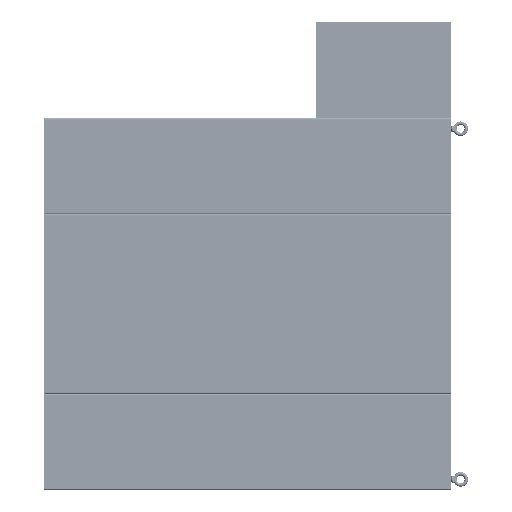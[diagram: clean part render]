
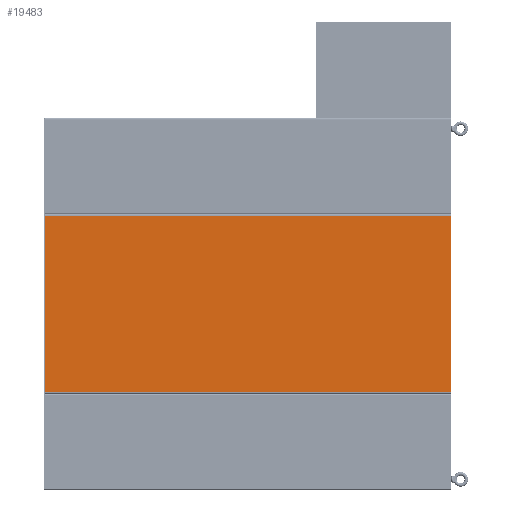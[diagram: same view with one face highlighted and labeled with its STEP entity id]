
A CAD part, left-side view. The second image highlights one B-rep face of the part: STEP entity #19483.
In plain terms, the highlighted planar face has unit normal (-1, 0, 0) as drawn and (0, 0, -1) by its records, which use the part's own axes.
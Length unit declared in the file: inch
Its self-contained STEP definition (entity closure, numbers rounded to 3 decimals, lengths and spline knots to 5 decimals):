
#19019=DIRECTION('',(0.,-1.,0.));
#19020=VECTOR('',#19019,71.75);
#19021=CARTESIAN_POINT('',(-15.625,0.,-0.125));
#19022=LINE('',#19021,#19020);
#19034=DIRECTION('',(1.,0.,0.));
#19035=VECTOR('',#19034,31.25);
#19036=CARTESIAN_POINT('',(-15.625,-71.75,-0.125));
#19037=LINE('',#19036,#19035);
#19041=DIRECTION('',(-1.,0.,0.));
#19042=VECTOR('',#19041,31.25);
#19043=CARTESIAN_POINT('',(15.625,0.,-0.125));
#19044=LINE('',#19043,#19042);
#19077=DIRECTION('',(0.,1.,0.));
#19078=VECTOR('',#19077,71.75);
#19079=CARTESIAN_POINT('',(15.625,-71.75,-0.125));
#19080=LINE('',#19079,#19078);
#19284=CARTESIAN_POINT('',(15.625,0.,-0.125));
#19285=VERTEX_POINT('',#19284);
#19286=CARTESIAN_POINT('',(15.625,-71.75,-0.125));
#19287=VERTEX_POINT('',#19286);
#19300=CARTESIAN_POINT('',(-15.625,-71.75,-0.125));
#19301=VERTEX_POINT('',#19300);
#19302=CARTESIAN_POINT('',(-15.625,0.,-0.125));
#19303=VERTEX_POINT('',#19302);
#19469=CARTESIAN_POINT('',(0.,0.,-0.125));
#19470=DIRECTION('',(0.,0.,1.));
#19471=DIRECTION('',(1.,0.,0.));
#19472=AXIS2_PLACEMENT_3D('',#19469,#19470,#19471);
#19473=PLANE('',#19472);
#19474=ORIENTED_EDGE('',*,*,#19462,.T.);
#19476=ORIENTED_EDGE('',*,*,#19475,.T.);
#19478=ORIENTED_EDGE('',*,*,#19477,.T.);
#19480=ORIENTED_EDGE('',*,*,#19479,.T.);
#19481=EDGE_LOOP('',(#19474,#19476,#19478,#19480));
#19482=FACE_OUTER_BOUND('',#19481,.F.);
#19462=EDGE_CURVE('',#19303,#19301,#19022,.T.);
#19475=EDGE_CURVE('',#19301,#19287,#19037,.T.);
#19477=EDGE_CURVE('',#19287,#19285,#19080,.T.);
#19479=EDGE_CURVE('',#19285,#19303,#19044,.T.);
#19483=ADVANCED_FACE('',(#19482),#19473,.F.);
